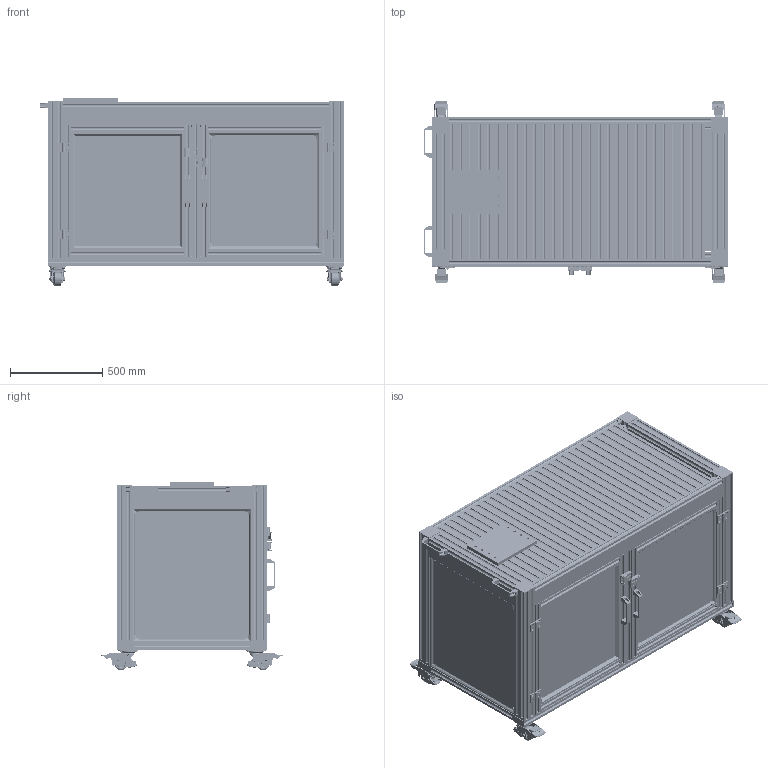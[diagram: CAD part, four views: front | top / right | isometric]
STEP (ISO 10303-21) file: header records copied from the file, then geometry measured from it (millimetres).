
FILE_DESCRIPTION(('STEP AP214'),'1');
FILE_NAME(' - 1600x810x1000 mit Flanschplatte.stp','2026-06-15T12:05:46',(' '),(' '),'Spatial InterOp 3D',' ',' ');
FILE_SCHEMA(('AUTOMOTIVE_DESIGN { 1 0 10303 214 1 1 1 1 }'));
Length unit declared in the file: millimetre
Products named in the file (917): GUS4651; GUS4650; BLS SKS M6; SKS M6X20 10.9; TIN4506; Rahmen; GUS4501; DOR4501; PIL4040S2N650; PIM4080SNN1600; PIL4080SN2650; PIM8080SN2848,4; PIL4012SNN650; PIL4012SNN1440; PIL2520SNN730; PIL4040S2N728,39; PAN____P_N____ + CAL4515SNN____ + CAN4501; Polycarbonat; CAL4515SNN____; CAN4501; 101419; 101420; PIL4040S2N1440; PIM4040S2N1440; FAS4081_vvm; FAS4080; 101044; 100941; FAS4041_vvm; FAS4040; FAS4041; CAP8081; CAP4081  ; Cobot 1600x810x1000 Ohne Flanschplatte; Tür seitlich 1; DOR4553; DOR4511; 1; PIM4040SNN718,4; CAP4041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
Assembly tree (1029 placements, depth 6):
  1329227 (1)
    Cobot 1600x810x1000 Ohne Flanschplatte
      Rahmen
        GUS4651
          GUS4650
          BLS SKS M6
          SKS M6X20 10.9
          TIN4506
        GUS4651
          GUS4650
          BLS SKS M6
          SKS M6X20 10.9
          TIN4506
        GUS4651
          GUS4650
          BLS SKS M6
          SKS M6X20 10.9
          TIN4506
        GUS4651
          GUS4650
          BLS SKS M6
          SKS M6X20 10.9
          TIN4506
        GUS4501
        GUS4501
        GUS4501
        GUS4501
        GUS4501
        GUS4501
        GUS4501
        GUS4501
        GUS4501
        GUS4501
        GUS4501
        GUS4501
        GUS4501
        GUS4501
        GUS4501
        GUS4501
        GUS4501
        GUS4501
        GUS4501
        GUS4501
        GUS4501
        GUS4501
        GUS4501
        GUS4501
        GUS4501
        GUS4501
        GUS4501
        GUS4501
        DOR4501
        DOR4501
        PIL4040S2N650
        PIM4080SNN1600
        PIL4080SN2650
        PIM4080SNN1600
        PIL4040S2N650
        PIL4040S2N650
        PIL4080SN2650
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Bounding box: 1651 x 985.47 x 1020.01 mm (x, y, z)
Volume: 69443066.3 mm3; surface area: 25636526 mm2
Topology: 944 solids, 944 shells, 16417 faces, 44787 edges, 29222 vertices
Faces by surface type: plane 10393, cylinder 1966, extrusion 1460, sphere 1156, bspline 724, cone 453, torus 265
Full cylindrical faces by diameter (mm): 1 x68, 2.3 x8, 4 x6, 4.3 x3, 5 x14, 5.3 x72, 5.5 x2, 5.6 x16, 6 x64, 6.2 x24, 6.3 x36, 6.5 x12, 7 x43, 7.7 x24, 8 x91, 8.1 x16, 8.2 x8, 8.4 x12, 8.5 x42, 8.6 x16, 9 x7, 9.293 x4, 9.5 x2, 10 x44, 10.157 x4, 10.4 x4, 10.5 x8, 11.3 x4, 12 x24, 12.3 x8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
Entity records: 789304 total; most frequent: CARTESIAN_POINT 255576, ORIENTED_EDGE 79568, DIRECTION 70384, EDGE_CURVE 39784, VECTOR 28144, VERTEX_POINT 27960, LINE 26684, AXIS2_PLACEMENT_3D 21120
